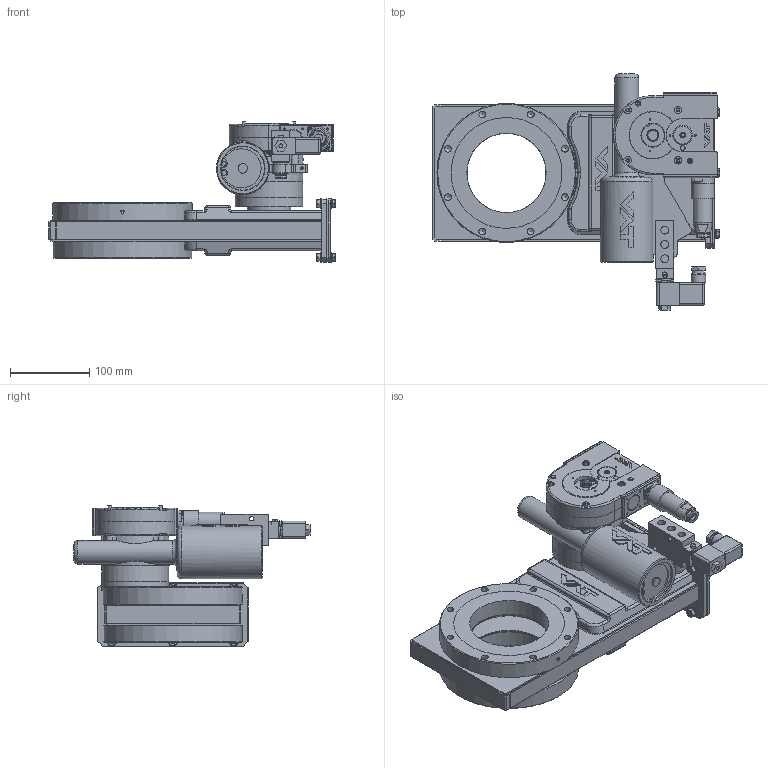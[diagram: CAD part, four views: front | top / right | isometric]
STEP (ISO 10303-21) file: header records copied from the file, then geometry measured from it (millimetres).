
FILE_DESCRIPTION(/* description */ (''),/* implementation_level */ '2;1');
FILE_NAME(/* name */ '1057868275_203.stp',/* time_stamp */ '2011-07-14T15:18:47+02:00',/* author */ (''),/* organization */ (''),/* preprocessor_version */ 'ST-DEVELOPER v11',/* originating_system */ 'SIEMENS UGS NX 6.0',/* authorisation */ '');
FILE_SCHEMA (('CONFIG_CONTROL_DESIGN'));
Length unit declared in the file: millimetre
Products named in the file (40): 47472-01.2; 47471-01.2; 47471-03.2; 90389-01.1; 45736-05.1; n-8504-002; N-6029-112.1; 60538-01.1; 60538-01_2.1; N-6016-123.1; N-6029-102.1; N-8504-102.3; N-6289-133.2; 60539-01.1; 60532-01.3; 82974-01.1; 47370-01.3; 82974-01.1_15405ID; 92157-01.2; N-6160-410.1; 47272-01.3; 43316-04.1; N-5021-469.1; N-6203-055.1; N-6121-026.2; n-7016-010; n-8501-300; N-7501-501_1.2; N-7501-501_2.2; N-7015-015.2; N-5062-001.1; 77777-01.1; n-6131-413.1; n-6053-411.2; n-5021-456.1; 77779-01.2; 228584.4; 47470-R1.3; 47538-r1.3_MODEL; 500015
Assembly tree (74 placements, depth 4):
  500015
    47538-r1.3_MODEL
      47470-R1.3
        45736-05.1  x2
        90389-01.1
        47471-03.2
        47471-01.2
        47472-01.2
      82974-01.1_15405ID
      47370-01.3
      82974-01.1
    77779-01.2
    n-5021-456.1  x6
    n-6053-411.2  x6
    n-6131-413.1  x12
    77777-01.1
    N-5062-001.1  x2
    N-7015-015.2  x2
    N-7501-501_2.2
    N-7501-501_1.2
    n-8501-300
    n-7016-010  x2
    N-6121-026.2  x3
    N-6203-055.1
    N-5021-469.1  x2
    43316-04.1
    47272-01.3
    N-6160-410.1  x2
    92157-01.2
    228584.4
      60532-01.3  x2
      60539-01.1
      N-6289-133.2
      N-8504-102.3
      N-6029-102.1  x2
      N-6016-123.1  x4
      60538-01_2.1
      60538-01.1
      N-6029-112.1  x2
      n-8504-002
Bounding box: 361.6 x 298.2 x 177.57 mm (x, y, z)
Volume: 1991962.5 mm3; surface area: 782943.8 mm2
Topology: 101 solids, 102 shells, 2659 faces, 6085 edges, 3886 vertices
Faces by surface type: plane 1359, cylinder 842, cone 229, bspline 167, torus 33, sphere 29
Full cylindrical faces by diameter (mm): 1 x2, 1.5 x7, 1.8 x7, 2 x24, 2.2 x2, 2.25 x20, 2.45 x20, 2.5 x1, 2.55 x4, 2.657 x1, 2.8 x3, 2.9 x2, 3 x12, 3.025 x8, 3.07 x12, 3.2 x5, 3.251 x1, 3.26 x4, 3.28 x8, 3.3 x9, 3.6 x2, 3.85 x3, 4 x10, 4.2 x2, 4.4 x2, 4.55 x8, 4.9 x1, 4.96 x8, 5 x12, 5.09 x2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
Entity records: 63646 total; most frequent: CARTESIAN_POINT 15728, DIRECTION 9076, ORIENTED_EDGE 7924, EDGE_CURVE 3962, AXIS2_PLACEMENT_3D 3520, VERTEX_POINT 2817, EDGE_LOOP 2716, LINE 2036
